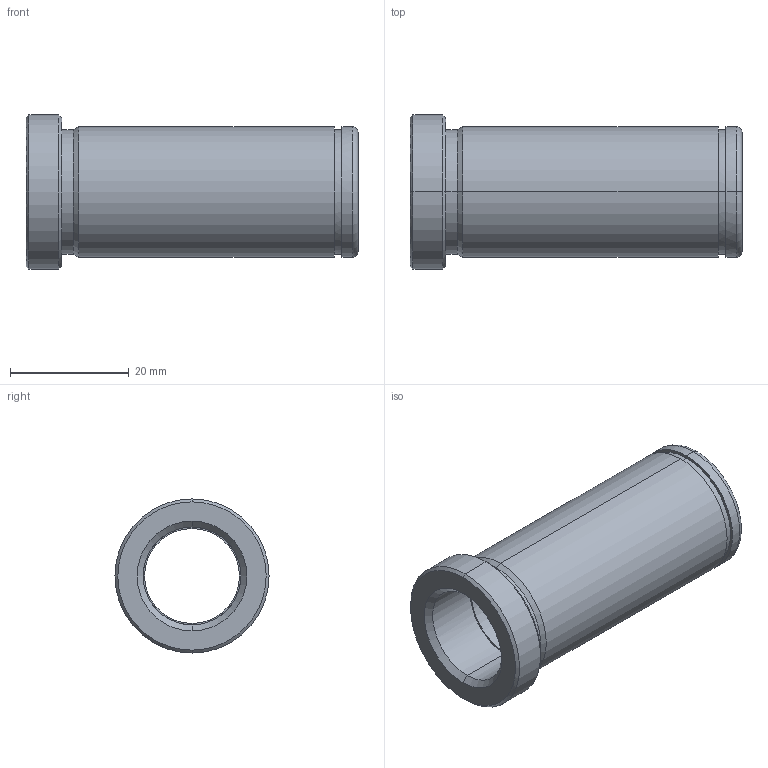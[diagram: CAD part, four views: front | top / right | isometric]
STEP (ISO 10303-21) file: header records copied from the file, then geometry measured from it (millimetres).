
FILE_DESCRIPTION(('CATIA V5 STEP Exchange'),'2;1');
FILE_NAME('C:\Users\Utente\Desktop\IO LAVORO\3D X SITO CF\X SITO\PLASTICA\553\553-16X56.stp','2021-05-21T18:55:44+00:00',('none'),('none'),'CATIA Version 5 Release 20 GA (IN-10)','CATIA V5 STEP AP203','none');
FILE_SCHEMA(('CONFIG_CONTROL_DESIGN'));
Length unit declared in the file: millimetre
Products named in the file (1): 553-16X56
Bounding box: 56 x 26 x 26 mm (x, y, z)
Volume: 10592 mm3; surface area: 7395.8 mm2
Topology: 1 solids, 1 shells, 32 faces, 102 edges, 76 vertices
Faces by surface type: cylinder 14, cone 8, plane 6, torus 4
Entity records: 1334 total; most frequent: CARTESIAN_POINT 389, ORIENTED_EDGE 204, DIRECTION 152, EDGE_CURVE 102, AXIS2_PLACEMENT_3D 99, VERTEX_POINT 76, CIRCLE 66, EDGE_LOOP 38
